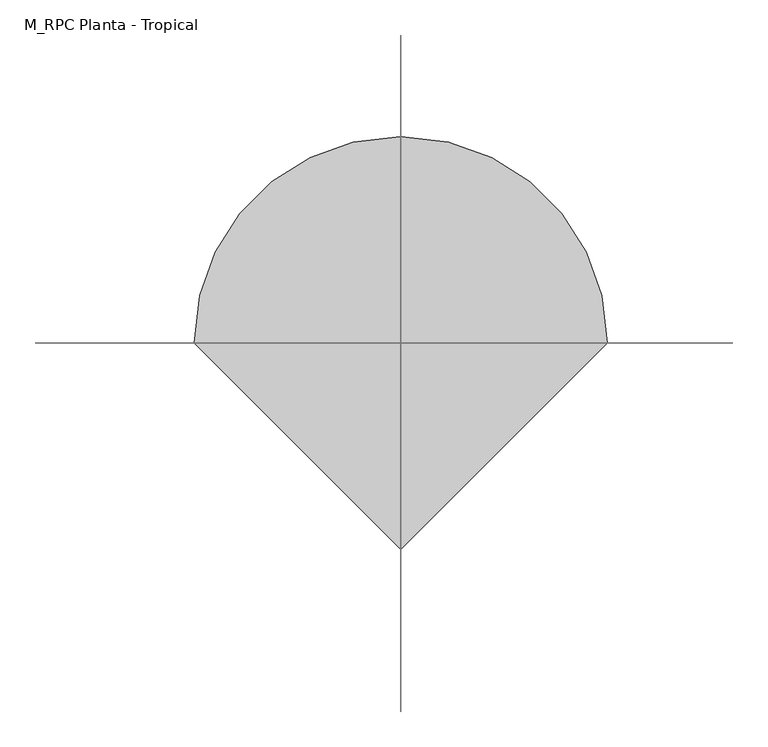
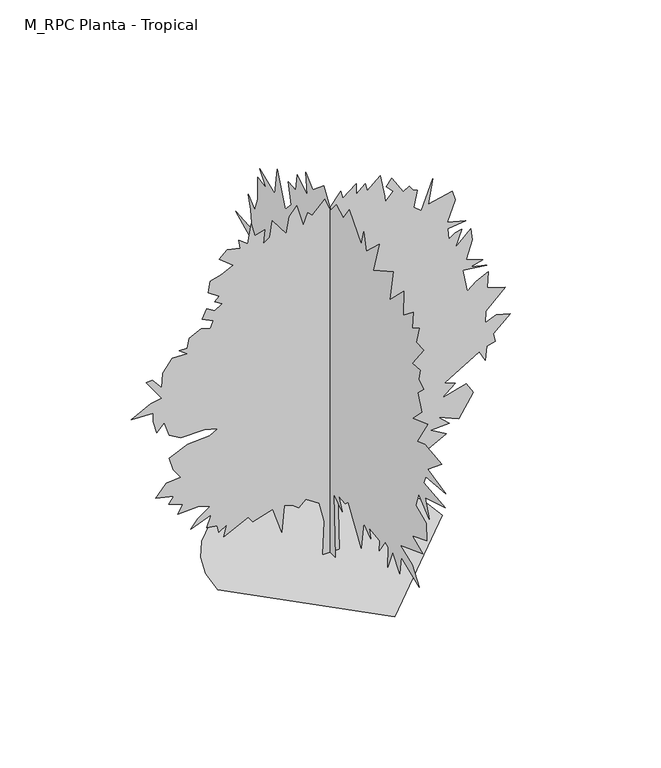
"""IFC4 building model written with IfcOpenShell, lengths in millimetres: geographic element geometry, M_RPC Planta - Tropical : Ixora coccinea - 1,0 metros."""

from ifc_helpers import new_model, si_unit, origin, place, context, project, spatial, triangles, source, transform, mapped, element, save


def m_rpc_planta_tropical_630d91e0(model_context):
    return source(origin(), model_context, "Body", "Tessellation", [
        triangles([(-292.9958332, 0.0, 5.08e-05), (-285.2458338, 67.1802517, 5.08e-05), (-263.1708368, 128.8747463, 5.08e-05), (-228.5385939, 183.3155003, 5.08e-05), (-183.1188372, 228.7354932, 5.08e-05), (-128.678074, 263.3674999, 5.08e-05), (-66.9835795, 285.442497, 5.08e-05), (0.1966839, 293.1924963, 5.08e-05), (67.3769239, 285.442497, 5.08e-05), (129.0714185, 263.3674999, 5.08e-05), (183.5121634, 228.735257, 5.08e-05), (228.9321563, 183.3155003, 5.08e-05), (263.5641631, 128.8747463, 5.08e-05), (285.6391601, 67.1802517, 5.08e-05), (293.3891594, -2.56e-05, 5.08e-05), (0.1966326, -293.1924963, 5.08e-05), (0.1966549, 21.9927255, 4.91e-05), (0.1966576, 22.0560506, 91.9764989), (0.1966573, 47.4965013, 119.3737455), (0.1966563, 92.506254, 152.641991), (0.1966565, 112.0757535, 191.7807539), (0.1966545, 125.7742542, 142.8572504), (0.196655, 143.3867511, 185.9100004), (0.196653, 160.9992571, 146.7710013), (0.1966536, 178.611754, 193.7377566), (0.1966511, 217.7507531, 168.2975035), (0.1966518, 215.7937504, 189.8240057), (0.1966477, 292.1150003, 164.3834982), (0.1966512, 245.1480088, 213.3072561), (0.1966498, 296.0274977, 240.7044937), (0.1966515, 268.6324947, 256.3600061), (0.1966522, 266.6750015, 277.8875075), (0.1966504, 305.8125109, 275.9299962), (0.1966529, 270.5874989, 307.2400037), (0.196652, 301.8999953, 322.8975145), (0.1966516, 333.2100028, 358.1225083), (0.1966501, 358.6499834, 344.4225088), (0.1966495, 391.9200093, 373.7775121), (0.1966497, 405.6175017, 403.1300082), (0.1966513, 374.3074943, 410.9600172), (0.1966495, 436.9300163, 442.2699883), (0.1966509, 409.5324881, 448.1400152), (0.1966514, 409.5324881, 465.752494), (0.1966528, 372.3499829, 457.9249921), (0.1966529, 409.5324881, 514.6774873), (0.1966542, 382.1349961, 518.5900028), (0.1966553, 384.0925075, 557.7299829), (0.1966572, 333.2100028, 545.9874948), (0.1966576, 352.7799929, 589.0399904), (0.1966576, 368.4349966, 612.5249668), (0.1966591, 362.5650061, 653.6199875), (0.1966571, 427.1450031, 682.9750271), (0.1966602, 352.7799929, 677.1049639), (0.1966616, 358.6499834, 729.9425091), (0.1966621, 370.3925079, 765.1674665), (0.1966626, 341.0375047, 739.7249788), (0.1966643, 327.3400123, 776.9075203), (0.1966662, 327.3400123, 837.5724947), (0.1966677, 288.1999958, 831.7025042), (0.1966675, 317.5549991, 866.9275343), (0.1966697, 249.0619959, 839.530006), (0.1966724, 239.2772552, 913.8950163), (0.1966714, 202.0952588, 825.8325136), (0.1966735, 174.6980031, 855.1850098), (0.1966745, 188.3964947, 909.9799936), (0.1966759, 155.1285035, 906.0675144), (0.1966776, 149.2574956, 953.0325256), (0.1966788, 102.2910037, 925.6349974), (0.1966802, 110.1187509, 984.3450039), (0.1966808, 78.8074989, 954.9899643), (0.1966843, 27.9269995, 996.084985), (0.1966842, -3.3842499, 947.1625351), (0.1966863, -28.824501, 978.4724699), (0.1966872, -60.1357507, 960.8600275), (0.1966896, -87.5330019, 1000.0000076), (0.1966901, -142.3275043, 937.3775219), (0.1966918, -152.1122541, 978.4724699), (0.1966909, -163.8540065, 931.5075314), (0.1966952, -222.5622508, 986.3025152), (0.1966913, -195.1649951, 898.2400126), (0.196697, -287.1425022, 949.1199738), (0.1966937, -271.4849914, 863.0149824), (0.1966983, -334.1075134, 923.6800295), (0.1966962, -332.1525092, 857.1425211), (0.1966993, -377.1600091, 892.3674786), (0.1966978, -373.2474936, 847.3575079), (0.1966997, -404.557501, 864.970023), (0.1966977, -390.8600086, 818.0050117), (0.1966991, -424.1274911, 816.0475004), (0.1966947, -371.2899822, 747.5550241), (0.1966965, -408.4724874, 751.4675034), (0.1966954, -402.6024968, 722.1124638), (0.1966959, -424.1274911, 708.4149714), (0.1966939, -396.7299992, 681.0175158), (0.1966934, -414.3425142, 637.9649837), (0.1966905, -375.2050049, 598.8250036), (0.1966941, -441.7400062, 622.30998), (0.1966898, -394.7724878, 545.9874948), (0.1966917, -429.997518, 559.6874943), (0.1966949, -506.3200032, 549.9025174), (0.1966904, -441.7400062, 497.0650085), (0.1966936, -523.932482, 479.4524935), (0.1966893, -433.9125043, 471.6249916), (0.1966882, -424.1274911, 450.0974902), (0.1966923, -521.975007, 440.3125134), (0.1966874, -431.954993, 412.9149851), (0.1966868, -449.567508, 363.9924989), (0.1966859, -402.6024968, 405.0874832), (0.1966841, -388.9024973, 365.9500102), (0.1966856, -435.8700156, 344.4225088), (0.1966843, -437.8274906, 297.4550086), (0.1966806, -373.2474936, 272.0149917), (0.1966821, -420.2150119, 250.4899974), (0.1966764, -318.4525097, 213.3072561), (0.1966782, -373.2474936, 191.7807539), (0.1966783, -404.557501, 148.7280039), (0.1966757, -322.367496, 181.9962494), (0.1966739, -316.4949984, 133.0725006), (0.1966736, -283.2274977, 172.2115088), (0.196671, -261.7025034, 117.4169972), (0.1966728, -263.6575077, 174.168257), (0.1966724, -249.9595066, 180.0392468), (0.1966699, -222.5622508, 138.9432542), (0.1966709, -224.5192534, 168.2975035), (0.196669, -177.5524981, 174.168257), (0.1966685, -183.4232517, 148.7280039), (0.1966678, -152.1122541, 172.2115088), (0.1966651, -142.3275043, 97.8474977), (0.1966651, -81.6622483, 187.867003), (0.1966641, -67.9634978, 176.1252415), (0.196663, -40.5662512, 180.0392468), (0.1966627, -56.2219998, 146.7710013), (0.1966617, -17.0828747, 172.2115088), (0.1966569, -24.9107251, 5.05e-05), (-18.7607791, -5.8e-05, 1.9e-06), (-14.8687792, -5.24e-05, 91.4607509), (-28.4905802, -4.97e-05, 145.9477503), (-63.5180797, -4.98e-05, 169.2994954), (-81.0318272, -5.17e-05, 151.7857479), (-98.5455746, -5.16e-05, 165.4074909), (-119.9513266, -5.22e-05, 171.2455067), (-125.7890789, -5.67e-05, 99.2444964), (-149.1408239, -5.35e-05, 171.2455067), (-201.6820936, -5.67e-05, 155.6777432), (-213.3578344, -5.63e-05, 171.2455067), (-277.5758441, -6.09e-05, 140.109998), (-269.790836, -5.87e-05, 171.2455067), (-291.195834, -6.05e-05, 157.6237545), (-295.088329, -5.95e-05, 177.0832499), (-322.3333048, -6.05e-05, 180.9752543), (-310.6558199, -5.81e-05, 212.1107449), (-363.198325, -6.17e-05, 190.7052564), (-345.683333, -5.95e-05, 214.0567562), (-312.6033028, -5.67e-05, 237.4084921), (-345.683333, -5.75e-05, 247.138258), (-398.2258018, -5.99e-05, 245.1922467), (-384.6033048, -5.81e-05, 266.597499), (-421.57583, -5.89e-05, 280.219996), (-407.9558038, -5.72e-05, 297.732499), (-454.658331, -5.86e-05, 309.410002), (-427.4158078, -5.55e-05, 340.5449839), (-390.4408118, -5.37e-05, 344.4375152), (-409.9008159, -5.29e-05, 371.680002), (-419.6308179, -5.13e-05, 406.7075151), (-370.9808078, -4.79e-05, 428.1124949), (-314.5483149, -4.52e-05, 432.0049899), (-293.1433351, -4.35e-05, 443.6825111), (-328.1708118, -4.45e-05, 453.410006), (-390.4408118, -4.72e-05, 453.410006), (-419.6308179, -4.74e-05, 470.924998), (-433.2533149, -4.57e-05, 509.8450061), (-452.7133189, -4.78e-05, 488.4374828), (-462.4408138, -4.62e-05, 523.464996), (-462.4408138, -4.48e-05, 546.817495), (-518.8758139, -4.71e-05, 548.7625071), (-468.280828, -4.34e-05, 574.0624889), (-439.0908219, -4.18e-05, 579.899996), (-479.9558058, -4.02e-05, 636.3325253), (-464.388333, -3.94e-05, 638.2774647), (-439.0908219, -4e-05, 609.0900021), (-437.1433027, -3.76e-05, 648.0074667), (-411.845828, -3.46e-05, 681.0899677), (-372.928327, -3.3e-05, 679.1424849), (-394.3333068, -3.3e-05, 694.7124647), (-372.928327, -3.2e-05, 694.7124647), (-367.0883128, -3.03e-05, 720.0099758), (-335.953331, -2.8e-05, 735.5774849), (-312.6033028, -2.74e-05, 727.792495), (-304.8183128, -2.59e-05, 747.252499), (-334.0083189, -2.64e-05, 760.874996), (-322.3333048, -2.44e-05, 786.1725071), (-300.925836, -2.43e-05, 772.5500101), (-281.465832, -2.26e-05, 786.1725071), (-300.925836, -2.28e-05, 797.8475212), (-289.2508401, -2.15e-05, 809.5225353), (-318.4408098, -2.17e-05, 828.9824667), (-312.6033028, -1.97e-05, 858.1724728), (-283.413333, -1.79e-05, 865.9575354), (-252.278333, -1.56e-05, 881.5249718), (-289.2508401, -1.55e-05, 910.7149778), (-267.8458421, -1.34e-05, 930.1749819), (-234.7635954, -1.24e-05, 922.389992), (-238.6553455, -1.12e-05, 945.742491), (-215.3038457, -1.12e-05, 928.227499), (-205.5738437, -7.7e-06, 980.7700041), (-195.8440779, -9.5e-06, 943.7950081), (-170.5463306, -7.9e-06, 951.579998), (-174.438335, -1.03e-05, 914.605002), (-156.9245785, -8.8e-06, 926.2824869), (-151.0865809, -6e-06, 969.0925192), (-114.113329, -7.3e-06, 920.4449799), (-106.3293292, -4.3e-06, 965.202495), (-86.8695795, -2e-06, 988.5525232), (-69.3560773, -4.9e-06, 928.227499), (-57.6800776, -2.5e-06, 959.3625172), (-46.0043277, -2.7e-06, 947.6875031), (-12.9228043, 7e-07, 980.7700041), (-1.2469515, -6e-07, 949.6325151), (27.942669, 3e-06, 988.5525232), (33.780419, 2e-06, 967.1475071), (68.807923, 5.1e-06, 994.3900303), (68.807923, 3.4e-06, 965.202495), (92.1596726, 5.7e-06, 986.6075111), (97.997425, 4.7e-06, 965.202495), (131.0789177, 7.8e-06, 994.3900303), (142.7549219, 4.8e-06, 934.0650061), (144.7009242, 3.9e-06, 918.497497), (166.1064126, 6.1e-06, 939.9049839), (146.646672, 6.4e-06, 959.3625172), (162.2146626, 8.2e-06, 976.8775091), (191.4041599, 6.7e-06, 930.1749819), (206.9719052, 7.9e-06, 939.9049839), (216.701671, 7.5e-06, 926.2824869), (228.3776662, 7.7e-06, 920.4449799), (218.6476642, 4.7e-06, 877.6324768), (238.1074139, 4.5e-06, 860.1200283), (269.241669, 1.05e-05, 937.957501), (257.5666549, 6.1e-06, 871.7949697), (319.8391983, 9.6e-06, 885.4174667), (327.6216811, 8.4e-06, 860.1200283), (306.216665, 4.2e-06, 805.6325111), (354.8666751, 5.6e-06, 792.0100142), (308.1616771, 3.2e-06, 786.1725071), (310.1091963, 1.5e-06, 756.982501), (327.6216811, 3e-06, 768.6575151), (345.1366731, 4e-06, 772.5500101), (327.6216811, 5e-07, 727.792495), (368.486665, 4.5e-06, 764.767491), (372.3791963, 2.8e-06, 733.630002), (356.8116872, -7e-07, 684.9825354), (399.6241902, 2e-07, 669.4150263), (368.486665, -1.7e-06, 659.6850243), (409.3516851, -5e-07, 649.9550222), (347.0816852, -2.8e-06, 657.7374687), (358.7566993, -6e-06, 595.4675051), (382.1091983, -3.8e-06, 614.9275091), (413.2441801, -1.5e-06, 630.4950182), (411.299168, -4.1e-06, 587.6825151), (458.0016953, -3e-06, 572.1150061), (407.406673, -8.1e-06, 523.464996), (405.4616973, -1.01e-05, 492.3300141), (434.6491962, -8.1e-06, 504.007499), (471.6241922, -7.1e-06, 494.277497), (426.8666771, -1.14e-05, 455.3574889), (432.7041842, -1.25e-05, 432.0049899), (409.3516851, -1.39e-05, 426.1674829), (405.4616973, -1.62e-05, 389.194994), (389.8941882, -1.52e-05, 418.3824929), (300.3791579, -2.23e-05, 363.8974829), (327.6216811, -2.18e-05, 352.219998), (292.594168, -2.51e-05, 323.0299919), (356.8116872, -2.13e-05, 340.5449839), (374.324172, -2.22e-05, 311.3550141), (337.3516831, -2.74e-05, 251.0300081), (282.864166, -2.84e-05, 274.3825071), (312.054172, -2.88e-05, 247.138258), (263.4041619, -3.1e-05, 245.1922467), (304.2691639, -3.06e-05, 221.8407469), (257.5666549, -3.42e-05, 196.5429996), (282.864166, -3.63e-05, 142.0557459), (228.3774118, -3.67e-05, 175.1372568), (236.1614207, -3.8e-05, 147.8937525), (197.2419213, -4.08e-05, 130.379996), (160.2686694, -4.04e-05, 163.4614978), (166.1064126, -4.49e-05, 83.6767511), (144.7009242, -4.16e-05, 155.6777432), (90.2136704, -4.66e-05, 110.9202463), (99.9434181, -4.34e-05, 157.6237545), (59.0781708, -4.84e-05, 103.1365008), (47.4021711, -4.68e-05, 138.1639958), (72.6999229, -4.19e-05, 202.3809972), (37.6724189, -4.38e-05, 196.5429996), (20.1586442, -4.63e-05, 167.3535022), (24.0505691, -5.61e-05, 0.0)], [[16, 15, 1], [15, 14, 1], [1, 14, 2], [14, 13, 2], [2, 13, 3], [3, 13, 4], [13, 12, 4], [12, 11, 4], [4, 11, 5], [5, 11, 6], [6, 11, 7], [7, 11, 8], [8, 11, 9], [9, 11, 10], [102, 101, 103], [120, 119, 121], [52, 51, 53], [105, 104, 106], [77, 76, 78], [28, 27, 29], [60, 59, 61], [107, 106, 108], [79, 78, 80], [123, 122, 124], [62, 61, 63], [55, 54, 56], [132, 131, 133], [116, 115, 117], [115, 114, 117], [22, 21, 23], [41, 40, 42], [33, 32, 34], [97, 96, 98], [69, 68, 70], [126, 125, 127], [128, 127, 129], [83, 82, 84], [87, 86, 88], [113, 112, 114], [24, 23, 25], [100, 99, 101], [85, 84, 86], [118, 117, 119], [81, 80, 82], [26, 25, 27], [89, 88, 90], [30, 29, 31], [45, 44, 46], [67, 66, 68], [65, 64, 66], [91, 90, 92], [47, 46, 48], [75, 74, 76], [93, 92, 94], [43, 42, 44], [42, 40, 44], [39, 38, 40], [99, 98, 101], [58, 57, 59], [71, 70, 72], [134, 133, 17], [17, 133, 18], [18, 133, 19], [106, 104, 108], [117, 114, 119], [73, 72, 74], [19, 133, 20], [38, 37, 40], [37, 36, 40], [20, 133, 21], [111, 110, 112], [110, 109, 112], [46, 44, 48], [54, 53, 56], [95, 94, 96], [101, 98, 103], [92, 90, 94], [70, 68, 72], [119, 114, 121], [121, 114, 122], [103, 98, 104], [130, 129, 131], [66, 64, 68], [88, 86, 90], [86, 84, 90], [84, 82, 90], [27, 25, 29], [29, 25, 31], [31, 25, 32], [59, 57, 61], [61, 57, 63], [57, 56, 63], [56, 53, 63], [104, 98, 108], [50, 49, 51], [40, 36, 44], [44, 36, 48], [36, 35, 48], [35, 34, 48], [32, 25, 34], [25, 23, 34], [23, 21, 34], [34, 21, 48], [21, 133, 48], [133, 131, 48], [131, 129, 48], [94, 90, 96], [90, 82, 96], [82, 80, 96], [112, 109, 114], [114, 109, 122], [68, 64, 72], [124, 122, 125], [122, 109, 125], [125, 109, 127], [127, 109, 129], [129, 109, 48], [109, 108, 48], [108, 98, 48], [98, 96, 48], [96, 80, 48], [80, 78, 48], [78, 76, 48], [76, 74, 48], [74, 72, 48], [72, 64, 48], [64, 63, 48], [63, 53, 48], [48, 53, 49], [49, 53, 51], [253, 252, 254], [237, 236, 238], [285, 284, 286], [142, 141, 143], [242, 241, 243], [205, 204, 206], [175, 174, 176], [152, 151, 153], [280, 279, 281], [267, 266, 268], [184, 183, 185], [251, 250, 252], [153, 151, 154], [287, 286, 288], [203, 202, 204], [210, 209, 211], [276, 275, 277], [146, 145, 147], [219, 218, 220], [221, 220, 222], [248, 247, 249], [289, 288, 290], [290, 288, 291], [156, 155, 157], [263, 262, 264], [213, 212, 214], [212, 211, 214], [246, 245, 247], [245, 244, 247], [172, 171, 173], [278, 277, 279], [262, 261, 264], [225, 224, 226], [257, 256, 258], [178, 177, 179], [179, 177, 180], [259, 258, 260], [223, 222, 224], [160, 159, 161], [270, 269, 271], [249, 247, 250], [217, 216, 218], [215, 214, 216], [207, 206, 208], [148, 147, 149], [252, 250, 254], [161, 159, 162], [158, 157, 159], [230, 229, 231], [229, 228, 231], [194, 193, 195], [150, 149, 151], [200, 199, 201], [201, 199, 202], [191, 190, 192], [190, 189, 192], [135, 294, 136], [294, 293, 136], [136, 293, 137], [206, 204, 208], [176, 174, 177], [265, 264, 266], [232, 231, 233], [239, 238, 240], [240, 238, 241], [238, 236, 241], [139, 138, 140], [256, 255, 258], [258, 255, 260], [164, 163, 165], [282, 281, 283], [283, 281, 284], [274, 273, 275], [273, 272, 275], [272, 271, 275], [234, 233, 235], [233, 231, 235], [163, 162, 165], [165, 162, 166], [144, 143, 145], [196, 195, 197], [197, 195, 198], [228, 227, 231], [231, 227, 235], [173, 171, 174], [174, 171, 177], [264, 261, 266], [266, 261, 268], [198, 195, 199], [137, 293, 138], [293, 292, 138], [159, 157, 162], [157, 155, 162], [162, 155, 166], [155, 154, 166], [166, 154, 167], [288, 286, 291], [286, 284, 291], [182, 181, 183], [181, 180, 183], [250, 247, 254], [149, 147, 151], [186, 185, 187], [187, 185, 188], [185, 183, 188], [202, 199, 204], [204, 199, 208], [226, 224, 227], [279, 277, 281], [281, 277, 284], [284, 277, 291], [268, 261, 269], [192, 189, 193], [241, 236, 243], [195, 193, 199], [199, 193, 208], [147, 145, 151], [151, 145, 154], [154, 145, 167], [145, 143, 167], [143, 141, 167], [224, 222, 227], [277, 275, 291], [275, 271, 291], [271, 269, 291], [180, 177, 183], [141, 140, 167], [140, 138, 167], [138, 292, 167], [292, 291, 167], [291, 269, 167], [269, 261, 167], [261, 260, 167], [260, 255, 167], [255, 254, 167], [254, 247, 167], [247, 244, 167], [244, 243, 167], [243, 236, 167], [236, 235, 167], [235, 227, 167], [227, 222, 167], [222, 220, 167], [220, 218, 167], [218, 216, 167], [216, 214, 167], [214, 211, 167], [211, 209, 167], [209, 208, 167], [208, 193, 167], [193, 189, 167], [189, 188, 167], [188, 183, 167], [183, 177, 167], [167, 177, 168], [177, 171, 168], [168, 171, 169], [171, 170, 169]], closed=False),
    ])


if __name__ == "__main__":
    model = new_model("IFC4")
    model_context = context("Model", 3, world=origin())
    ifc_project = project(units=[si_unit("LENGTHUNIT", "METRE", prefix="MILLI")], contexts=[model_context])
    site = spatial("IfcSite", under=ifc_project)
    building = spatial("IfcBuilding", under=site)
    placement = place(None, origin())
    m_rpc_planta_tropical_shape = m_rpc_planta_tropical_630d91e0(model_context)
    element("IfcGeographicElement", 1, ObjectType="M_RPC Planta - Tropical : Ixora coccinea - 1,0 metros", at=placement, inside=building, context=model_context, shape_type="MappedRepresentation", body=[
        mapped(m_rpc_planta_tropical_shape, transform((0.0, 0.0, 0.0), x_axis=(1.0, 0.0, 0.0), y_axis=(0.0, 1.0, 0.0), z_axis=(0.0, 0.0, 1.0))),
    ])
    save(model, "model.ifc")
